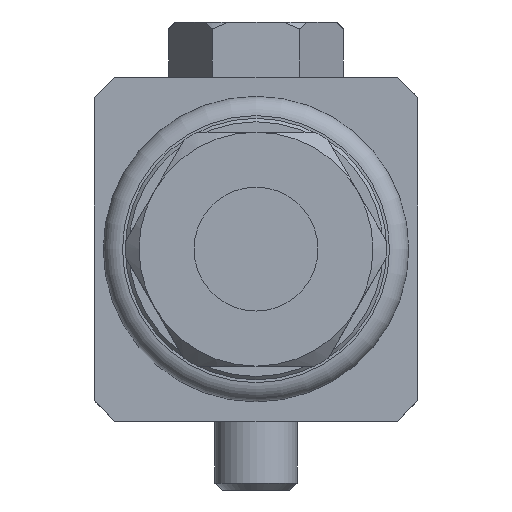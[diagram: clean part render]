
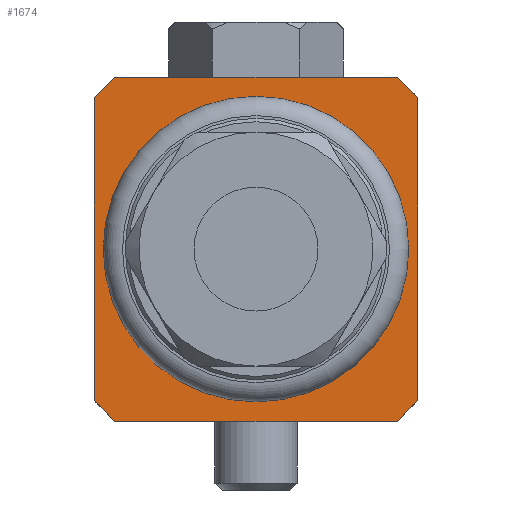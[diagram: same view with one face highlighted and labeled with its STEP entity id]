
A CAD part, front view. The second image highlights one B-rep face of the part: STEP entity #1674.
In plain terms, the highlighted planar face has unit normal (0, -1, 0).
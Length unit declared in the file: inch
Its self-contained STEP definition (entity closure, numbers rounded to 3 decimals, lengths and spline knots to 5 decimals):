
#43=FACE_BOUND('',#370,.T.);
#135=CIRCLE('',#1847,0.43701);
#136=CIRCLE('',#1848,0.43701);
#264=FACE_OUTER_BOUND('',#369,.T.);
#369=EDGE_LOOP('',(#1245,#1246,#1247,#1248,#1249,#1250,#1251,#1252));
#370=EDGE_LOOP('',(#1253,#1254));
#461=LINE('',#2750,#543);
#467=LINE('',#2762,#549);
#468=LINE('',#2765,#550);
#471=LINE('',#2774,#553);
#472=LINE('',#2777,#554);
#476=LINE('',#2803,#558);
#477=LINE('',#2807,#559);
#478=LINE('',#2808,#560);
#543=VECTOR('',#2178,0.3937);
#549=VECTOR('',#2186,0.3937);
#550=VECTOR('',#2189,0.3937);
#553=VECTOR('',#2198,0.3937);
#554=VECTOR('',#2203,0.3937);
#558=VECTOR('',#2233,0.3937);
#559=VECTOR('',#2238,0.3937);
#560=VECTOR('',#2239,0.3937);
#687=VERTEX_POINT('',#2746);
#689=VERTEX_POINT('',#2749);
#692=VERTEX_POINT('',#2756);
#694=VERTEX_POINT('',#2760);
#695=VERTEX_POINT('',#2764);
#698=VERTEX_POINT('',#2771);
#703=VERTEX_POINT('',#2788);
#704=VERTEX_POINT('',#2790);
#707=VERTEX_POINT('',#2801);
#708=VERTEX_POINT('',#2806);
#879=EDGE_CURVE('',#687,#689,#461,.T.);
#885=EDGE_CURVE('',#692,#694,#467,.T.);
#886=EDGE_CURVE('',#689,#695,#468,.T.);
#891=EDGE_CURVE('',#695,#698,#471,.T.);
#893=EDGE_CURVE('',#698,#694,#472,.T.);
#899=EDGE_CURVE('',#704,#703,#135,.T.);
#900=EDGE_CURVE('',#703,#704,#136,.T.);
#905=EDGE_CURVE('',#707,#687,#476,.T.);
#907=EDGE_CURVE('',#692,#708,#477,.T.);
#908=EDGE_CURVE('',#707,#708,#478,.T.);
#1245=ORIENTED_EDGE('',*,*,#907,.F.);
#1246=ORIENTED_EDGE('',*,*,#885,.T.);
#1247=ORIENTED_EDGE('',*,*,#893,.F.);
#1248=ORIENTED_EDGE('',*,*,#891,.F.);
#1249=ORIENTED_EDGE('',*,*,#886,.F.);
#1250=ORIENTED_EDGE('',*,*,#879,.F.);
#1251=ORIENTED_EDGE('',*,*,#905,.F.);
#1252=ORIENTED_EDGE('',*,*,#908,.T.);
#1253=ORIENTED_EDGE('',*,*,#899,.T.);
#1254=ORIENTED_EDGE('',*,*,#900,.T.);
#1507=PLANE('',#1855);
#1674=ADVANCED_FACE('',(#264,#43),#1507,.T.);
#1847=AXIS2_PLACEMENT_3D('',#2791,#2217,#2218);
#1848=AXIS2_PLACEMENT_3D('',#2792,#2219,#2220);
#1855=AXIS2_PLACEMENT_3D('',#2805,#2236,#2237);
#2178=DIRECTION('',(0.,0.,1.));
#2186=DIRECTION('',(0.,0.,1.));
#2189=DIRECTION('',(0.707,0.,0.707));
#2198=DIRECTION('',(1.,0.,0.));
#2203=DIRECTION('',(0.707,0.,-0.707));
#2217=DIRECTION('center_axis',(0.,1.,0.));
#2218=DIRECTION('ref_axis',(0.581,0.,-0.814));
#2219=DIRECTION('center_axis',(0.,1.,0.));
#2220=DIRECTION('ref_axis',(0.581,0.,-0.814));
#2233=DIRECTION('',(-0.707,0.,0.707));
#2236=DIRECTION('center_axis',(0.,-1.,0.));
#2237=DIRECTION('ref_axis',(0.,0.,
-1.));
#2238=DIRECTION('',(-0.707,0.,-0.707));
#2239=DIRECTION('',(1.,0.,0.));
#2746=CARTESIAN_POINT('',(-1.92255,-1.68852,-0.11953));
#2749=CARTESIAN_POINT('',(-1.92255,-1.68852,0.74661));
#2750=CARTESIAN_POINT('',(-1.92255,-1.68852,-0.11953));
#2756=CARTESIAN_POINT('',(-0.99735,-1.68852,-0.11953));
#2760=CARTESIAN_POINT('',(-0.99735,-1.68852,0.74661));
#2762=CARTESIAN_POINT('',(-0.99735,-1.68852,-0.11953));
#2764=CARTESIAN_POINT('',(-1.86349,-1.68852,0.80566));
#2765=CARTESIAN_POINT('',(-1.92255,-1.68852,0.74661));
#2771=CARTESIAN_POINT('',(-1.05641,-1.68852,0.80566));
#2774=CARTESIAN_POINT('',(-1.86349,-1.68852,0.80566));
#2777=CARTESIAN_POINT('',(-1.05641,-1.68852,0.80566));
#2788=CARTESIAN_POINT('',(-1.45995,-1.68852,0.75055));
#2790=CARTESIAN_POINT('',(-1.45995,-1.68852,-0.12347));
#2791=CARTESIAN_POINT('Origin',(-1.45995,-1.68852,0.31354));
#2792=CARTESIAN_POINT('Origin',(-1.45995,-1.68852,0.31354));
#2801=CARTESIAN_POINT('',(-1.86349,-1.68852,-0.17859));
#2803=CARTESIAN_POINT('',(-1.86349,-1.68852,-0.17859));
#2805=CARTESIAN_POINT('Origin',(-1.45995,-1.68852,-0.17863));
#2806=CARTESIAN_POINT('',(-1.05641,-1.68852,-0.17859));
#2807=CARTESIAN_POINT('',(-0.99735,-1.68852,-0.11953));
#2808=CARTESIAN_POINT('',(-1.86349,-1.68852,-0.17859));
